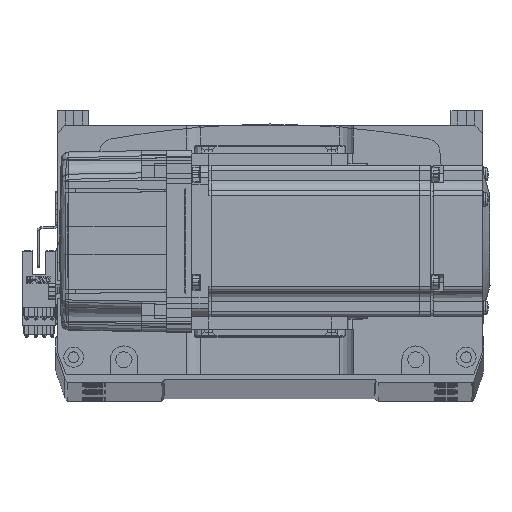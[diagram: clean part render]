
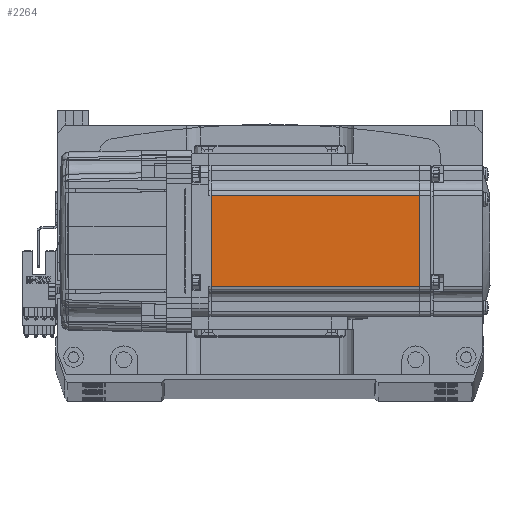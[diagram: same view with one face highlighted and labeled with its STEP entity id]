
A CAD part, top view. The second image highlights one B-rep face of the part: STEP entity #2264.
In plain terms, the highlighted planar face has unit normal (0, 0, 1) as drawn and (0, -1, 0) by its records, which use the part's own axes.
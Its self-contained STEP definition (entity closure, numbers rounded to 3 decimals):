
#810 = VECTOR ( 'NONE', #60094, 1000. ) ;
#1406 = EDGE_LOOP ( 'NONE', ( #42311, #28093, #59806, #51590 ) ) ;
#2264 = ADVANCED_FACE ( 'NONE', ( #42507 ), #22914, .T. ) ;
#5556 = DIRECTION ( 'NONE',  ( 0., 0., -1. ) ) ;
#5700 = CARTESIAN_POINT ( 'NONE',  ( -7.75, -30., -25. ) ) ;
#6379 = CARTESIAN_POINT ( 'NONE',  ( -90.45, -30., 18. ) ) ;
#9125 = VERTEX_POINT ( 'NONE', #52551 ) ;
#9796 = EDGE_CURVE ( 'NONE', #48316, #19615, #22685, .T. ) ;
#12958 = DIRECTION ( 'NONE',  ( 1., 0., 0. ) ) ;
#19615 = VERTEX_POINT ( 'NONE', #22005 ) ;
#21671 = VECTOR ( 'NONE', #24072, 1000. ) ;
#22005 = CARTESIAN_POINT ( 'NONE',  ( -90.45, -30., -18. ) ) ;
#22685 = LINE ( 'NONE', #59344, #810 ) ;
#22914 = PLANE ( 'NONE',  #66332 ) ;
#24072 = DIRECTION ( 'NONE',  ( 0., 0., 1. ) ) ;
#24146 = VECTOR ( 'NONE', #37778, 1000. ) ;
#25995 = LINE ( 'NONE', #38549, #24146 ) ;
#28093 = ORIENTED_EDGE ( 'NONE', *, *, #48374, .T. ) ;
#28249 = EDGE_CURVE ( 'NONE', #19615, #46050, #30832, .T. ) ;
#28989 = VECTOR ( 'NONE', #12958, 1000. ) ;
#30832 = LINE ( 'NONE', #71083, #28989 ) ;
#37778 = DIRECTION ( 'NONE',  ( -1., 0., 0. ) ) ;
#38549 = CARTESIAN_POINT ( 'NONE',  ( -6.5, -30., 18. ) ) ;
#38940 = CARTESIAN_POINT ( 'NONE',  ( -7.75, -30., -18. ) ) ;
#42311 = ORIENTED_EDGE ( 'NONE', *, *, #51478, .T. ) ;
#42507 = FACE_OUTER_BOUND ( 'NONE', #1406, .T. ) ;
#46050 = VERTEX_POINT ( 'NONE', #38940 ) ;
#48316 = VERTEX_POINT ( 'NONE', #6379 ) ;
#48374 = EDGE_CURVE ( 'NONE', #9125, #48316, #25995, .T. ) ;
#51478 = EDGE_CURVE ( 'NONE', #46050, #9125, #68278, .T. ) ;
#51590 = ORIENTED_EDGE ( 'NONE', *, *, #28249, .T. ) ;
#52062 = DIRECTION ( 'NONE',  ( 0., -1., 0. ) ) ;
#52551 = CARTESIAN_POINT ( 'NONE',  ( -7.75, -30., 18. ) ) ;
#59344 = CARTESIAN_POINT ( 'NONE',  ( -90.45, -30., -25. ) ) ;
#59806 = ORIENTED_EDGE ( 'NONE', *, *, #9796, .T. ) ;
#60094 = DIRECTION ( 'NONE',  ( 0., 0., -1. ) ) ;
#66332 = AXIS2_PLACEMENT_3D ( 'NONE', #75699, #52062, #5556 ) ;
#68278 = LINE ( 'NONE', #5700, #21671 ) ;
#71083 = CARTESIAN_POINT ( 'NONE',  ( -6.5, -30., -18. ) ) ;
#75699 = CARTESIAN_POINT ( 'NONE',  ( -6.5, -30., -25. ) ) ;
